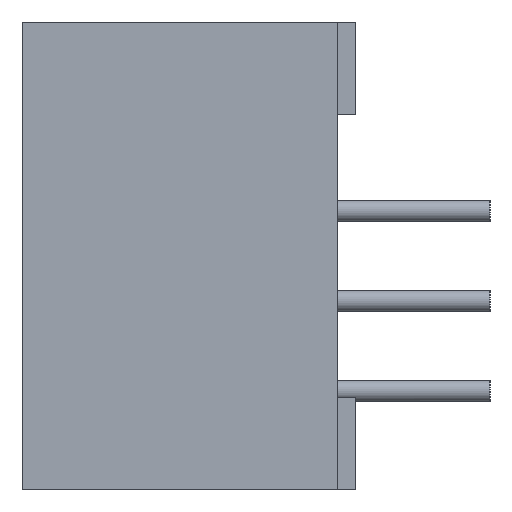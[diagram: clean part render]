
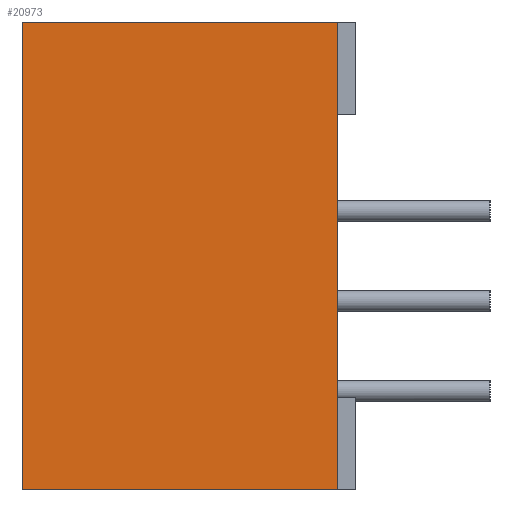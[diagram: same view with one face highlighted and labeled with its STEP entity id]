
A CAD part, left-side view. The second image highlights one B-rep face of the part: STEP entity #20973.
In plain terms, the highlighted planar face has unit normal (-1, 0, 0).
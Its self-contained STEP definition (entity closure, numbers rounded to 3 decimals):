
#3063 = CARTESIAN_POINT ( 'NONE',  ( -14.497, 8.89, 6.597 ) ) ;
#3064 = CARTESIAN_POINT ( 'NONE',  ( -14.497, 8.89, -6.597 ) ) ;
#3065 = DIRECTION ( 'NONE',  ( 0., 0., 1. ) ) ;
#3066 = VECTOR ( 'NONE', #3065, 1000. ) ;
#3067 = CARTESIAN_POINT ( 'NONE',  ( -14.497, 8.89, 6.6 ) ) ;
#3068 = LINE ( 'NONE', #3067, #3066 ) ;
#4900 = CARTESIAN_POINT ( 'NONE',  ( -14.5, 0., 4. ) ) ;
#5062 = CARTESIAN_POINT ( 'NONE',  ( -14.5, 0., -4. ) ) ;
#5063 = DIRECTION ( 'NONE',  ( 0., 0., 1. ) ) ;
#5064 = VECTOR ( 'NONE', #5063, 1000. ) ;
#5065 = CARTESIAN_POINT ( 'NONE',  ( -14.5, 0., 6.6 ) ) ;
#5066 = LINE ( 'NONE', #5065, #5064 ) ;
#5248 = DIRECTION ( 'NONE',  ( 0., -1., 0. ) ) ;
#5249 = VECTOR ( 'NONE', #5248, 1000. ) ;
#5250 = CARTESIAN_POINT ( 'NONE',  ( -14.5, 0.005, -6.6 ) ) ;
#5251 = LINE ( 'NONE', #5250, #5249 ) ;
#5252 = DIRECTION ( 'NONE',  ( 0., -1., 0. ) ) ;
#5253 = VECTOR ( 'NONE', #5252, 1000. ) ;
#5254 = CARTESIAN_POINT ( 'NONE',  ( -14.5, 0.011, 6.6 ) ) ;
#5255 = LINE ( 'NONE', #5254, #5253 ) ;
#5256 = CARTESIAN_POINT ( 'NONE',  ( -14.5, 0., 6.6 ) ) ;
#5257 = DIRECTION ( 'NONE',  ( 0., 0., 1. ) ) ;
#5258 = VECTOR ( 'NONE', #5257, 1000. ) ;
#5259 = CARTESIAN_POINT ( 'NONE',  ( -14.5, 0., 6.6 ) ) ;
#5260 = LINE ( 'NONE', #5259, #5258 ) ;
#5281 = CARTESIAN_POINT ( 'NONE',  ( -14.5, 0., -6.6 ) ) ;
#5282 = DIRECTION ( 'NONE',  ( 0., 0., 1. ) ) ;
#5283 = VECTOR ( 'NONE', #5282, 1000. ) ;
#5284 = CARTESIAN_POINT ( 'NONE',  ( -14.5, 0., 6.6 ) ) ;
#5285 = DIRECTION ( 'NONE',  ( 0., -1., 0. ) ) ;
#5286 = DIRECTION ( 'NONE',  ( -1., 0., 0. ) ) ;
#5287 = CARTESIAN_POINT ( 'NONE',  ( -14.5, 0., 6.6 ) ) ;
#5288 = AXIS2_PLACEMENT_3D ( 'NONE', #5287, #5286, #5285 ) ;
#5289 = PLANE ( 'NONE',  #5288 ) ;
#5290 = LINE ( 'NONE', #5284, #5283 ) ;
#5291 = FACE_OUTER_BOUND ( 'NONE', #20974, .T. ) ;
#20156 = EDGE_CURVE ( 'NONE', #20157, #20158, #3068, .T. ) ;
#20157 = VERTEX_POINT ( 'NONE', #3064 ) ;
#20158 = VERTEX_POINT ( 'NONE', #3063 ) ;
#20791 = VERTEX_POINT ( 'NONE', #4900 ) ;
#20833 = EDGE_CURVE ( 'NONE', #20834, #20791, #5066, .T. ) ;
#20834 = VERTEX_POINT ( 'NONE', #5062 ) ;
#20950 = ORIENTED_EDGE ( 'NONE', *, *, #20833, .T. ) ;
#20951 = ORIENTED_EDGE ( 'NONE', *, *, #20952, .T. ) ;
#20952 = EDGE_CURVE ( 'NONE', #20791, #20953, #5260, .T. ) ;
#20953 = VERTEX_POINT ( 'NONE', #5256 ) ;
#20954 = ORIENTED_EDGE ( 'NONE', *, *, #20955, .F. ) ;
#20955 = EDGE_CURVE ( 'NONE', #20158, #20953, #5255, .T. ) ;
#20956 = ORIENTED_EDGE ( 'NONE', *, *, #20156, .F. ) ;
#20958 = ORIENTED_EDGE ( 'NONE', *, *, #20959, .T. ) ;
#20959 = EDGE_CURVE ( 'NONE', #20157, #20977, #5251, .T. ) ;
#20973 = ADVANCED_FACE ( 'NONE', ( #5291 ), #5289, .T. ) ;
#20974 = EDGE_LOOP ( 'NONE', ( #20975, #20950, #20951, #20954, #20956, #20958 ) ) ;
#20975 = ORIENTED_EDGE ( 'NONE', *, *, #20976, .T. ) ;
#20976 = EDGE_CURVE ( 'NONE', #20977, #20834, #5290, .T. ) ;
#20977 = VERTEX_POINT ( 'NONE', #5281 ) ;
